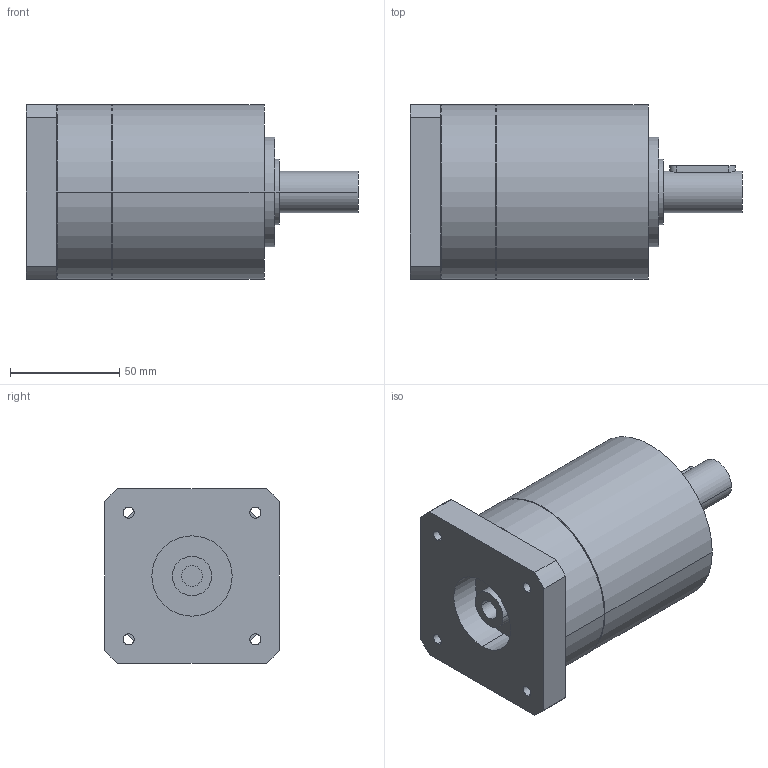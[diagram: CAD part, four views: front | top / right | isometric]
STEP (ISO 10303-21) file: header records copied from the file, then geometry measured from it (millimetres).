
FILE_DESCRIPTION(('CoCreate Modeling STEP Export'),'2;1');
FILE_NAME('GPR100_ig-3-4-5-6_19_B14_9.52_P27.stp','2014-08-26T10:09:55',(''),(''),'CoCreate Modeling STEP processor for AP214 (Solid Model)','CoCreate Modeling 16.00C 25-Feb-2009 (C) Parametric Technology GmbH','');
FILE_SCHEMA(('AUTOMOTIVE_DESIGN { 1 0 10303 214 1 1 1 1 }'));
Length unit declared in the file: millimetre
Products named in the file (2): GPR100_ig-3-4-5-6_19_B14_9.52_P27
Assembly tree (1 placements, depth 2):
  GPR100_ig-3-4-5-6_19_B14_9.52_P27
    GPR100_ig-3-4-5-6_19_B14_9.52_P27
Bounding box: 152 x 80 x 80 mm (x, y, z)
Volume: 570188.1 mm3; surface area: 49676.3 mm2
Topology: 1 solids, 1 shells, 71 faces, 193 edges, 131 vertices
Faces by surface type: cylinder 40, plane 25, cone 6
Entity records: 1947 total; most frequent: ORIENTED_EDGE 382, CARTESIAN_POINT 359, DIRECTION 264, EDGE_CURVE 191, VERTEX_POINT 131, AXIS2_PLACEMENT_3D 100, EDGE_LOOP 88, FACE_OUTER_BOUND 71
